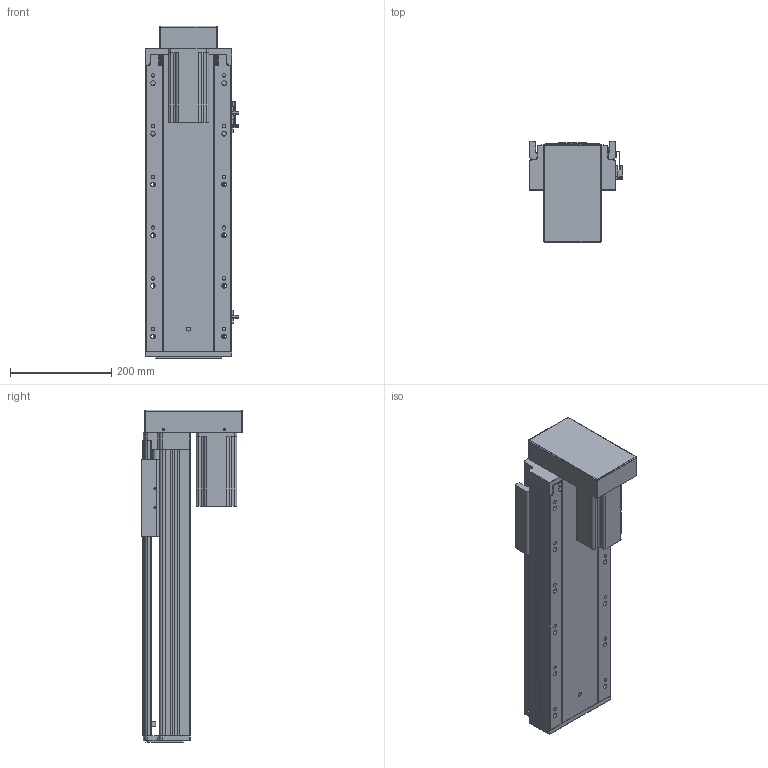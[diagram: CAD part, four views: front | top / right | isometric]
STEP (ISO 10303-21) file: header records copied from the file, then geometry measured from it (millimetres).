
FILE_DESCRIPTION (( 'STEP AP203' ), '1' );
FILE_NAME ('RY170-L2510-300-BK.SLDASM_350.step', '2021-03-12T08:57:40', ( '盈信电脑' ), ( '东莞市道滘镇水果街19号' ), 'SwSTEP 2.0', 'SolidWorks 2012', '' );
FILE_SCHEMA (( 'CONFIG_CONTROL_DESIGN' ));
Length unit declared in the file: millimetre
Products named in the file (14): 滅袉蝶18-20; RY170綴裔啣; 覜茼ん672; RY170外置感应片(200共用）; RY170-300倰第裔啣-BK_350; 改造-RY170铝滑块25丝杆螺母; RY170-300倰第菁釱-BK_350; RY170狟殏萇儂欶; RY170转折电机端支撑座(7004); 滅袉蝶18-10; RY170-狟殏萇儂假蚾啣; RY170-L2510-300-BK.SLDASM_350; 怢湛750W萇儂ㄗ80遺ㄘ; RY170-狟殏750W萇儂傷
Assembly tree (15 placements, depth 3):
  RY170-L2510-300-BK.SLDASM_350
    RY170-300倰第菁釱-BK_350
    改造-RY170铝滑块25丝杆螺母
    RY170-300倰第裔啣-BK_350
    RY170綴裔啣
    覜茼ん672  x3
    RY170外置感应片(200共用）
    滅袉蝶18-20
    滅袉蝶18-10
    RY170转折电机端支撑座(7004)
    RY170-狟殏750W萇儂傷
      RY170-狟殏萇儂假蚾啣
      RY170狟殏萇儂欶
      怢湛750W萇儂ㄗ80遺ㄘ
Bounding box: 183.7 x 200.8 x 654.5 mm (x, y, z)
Volume: 4477802.6 mm3; surface area: 1277605.2 mm2
Topology: 14 solids, 14 shells, 2048 faces, 5861 edges, 3784 vertices
Faces by surface type: plane 1078, cylinder 809, cone 142, bspline 19
Entity records: 65890 total; most frequent: CARTESIAN_POINT 15624, ORIENTED_EDGE 10530, DIRECTION 9715, EDGE_CURVE 5265, VERTEX_POINT 3464, VECTOR 3329, LINE 3329, AXIS2_PLACEMENT_3D 3193
